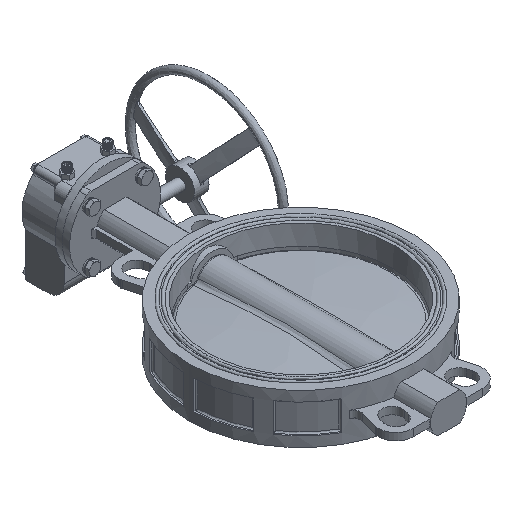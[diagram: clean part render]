
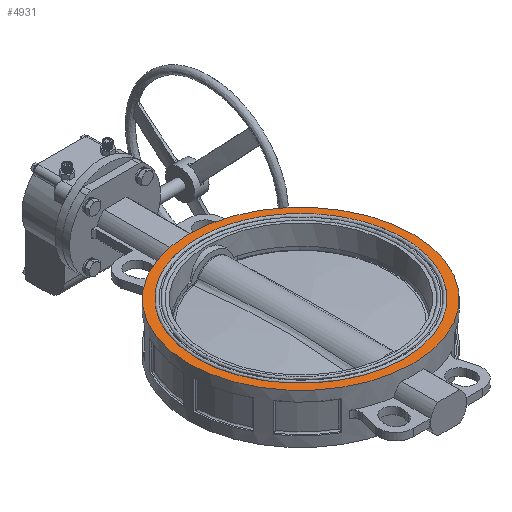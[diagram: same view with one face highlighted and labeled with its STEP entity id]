
A CAD part, isometric view. The second image highlights one B-rep face of the part: STEP entity #4931.
In plain terms, the highlighted planar face has unit normal (0, 0, 1).
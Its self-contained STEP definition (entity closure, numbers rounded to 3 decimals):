
#1837 = CARTESIAN_POINT ( 'NONE',  ( -143.646, -5.528, 34. ) ) ;
#3667 = AXIS2_PLACEMENT_3D ( 'NONE', #33549, #10397, #25736 ) ;
#4931 = ADVANCED_FACE ( 'NONE', ( #36587, #5888 ), #13677, .T. ) ;
#5888 = FACE_OUTER_BOUND ( 'NONE', #47304, .T. ) ;
#7142 = DIRECTION ( 'NONE',  ( 0., 0., -1. ) ) ;
#10397 = DIRECTION ( 'NONE',  ( 0., 0., -1. ) ) ;
#13677 = PLANE ( 'NONE',  #33795 ) ;
#13751 = CARTESIAN_POINT ( 'NONE',  ( -141.646, -5.528, 34. ) ) ;
#18720 = ORIENTED_EDGE ( 'NONE', *, *, #39326, .T. ) ;
#20551 = CARTESIAN_POINT ( 'NONE',  ( -153.646, -5.528, 34. ) ) ;
#21491 = DIRECTION ( 'NONE',  ( -1., 0., 0. ) ) ;
#24760 = EDGE_LOOP ( 'NONE', ( #18720 ) ) ;
#25736 = DIRECTION ( 'NONE',  ( -1., 0., 0. ) ) ;
#26368 = AXIS2_PLACEMENT_3D ( 'NONE', #48916, #7142, #21491 ) ;
#29269 = DIRECTION ( 'NONE',  ( 0., 0., 1. ) ) ;
#31899 = VERTEX_POINT ( 'NONE', #20551 ) ;
#32472 = EDGE_CURVE ( 'NONE', #31899, #31899, #48047, .T. ) ;
#33549 = CARTESIAN_POINT ( 'NONE',  ( 0.354, -5.528, 34. ) ) ;
#33795 = AXIS2_PLACEMENT_3D ( 'NONE', #1837, #29269, #44624 ) ;
#36587 = FACE_BOUND ( 'NONE', #24760, .T. ) ;
#39326 = EDGE_CURVE ( 'NONE', #47970, #47970, #47075, .T. ) ;
#44624 = DIRECTION ( 'NONE',  ( 1., 0., 0. ) ) ;
#47075 = CIRCLE ( 'NONE', #3667, 142. ) ;
#47304 = EDGE_LOOP ( 'NONE', ( #49184 ) ) ;
#47970 = VERTEX_POINT ( 'NONE', #13751 ) ;
#48047 = CIRCLE ( 'NONE', #26368, 154. ) ;
#48916 = CARTESIAN_POINT ( 'NONE',  ( 0.354, -5.528, 34. ) ) ;
#49184 = ORIENTED_EDGE ( 'NONE', *, *, #32472, .F. ) ;
